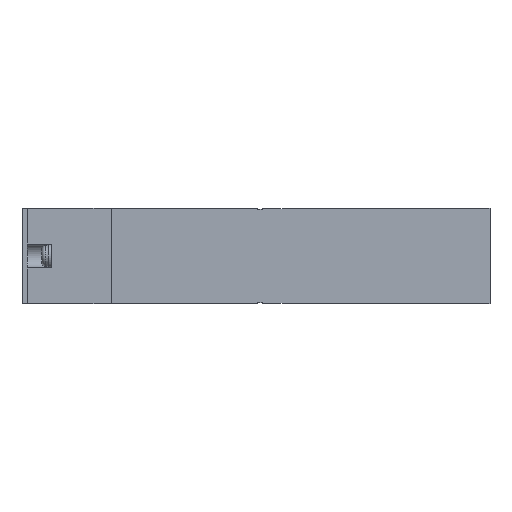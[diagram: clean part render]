
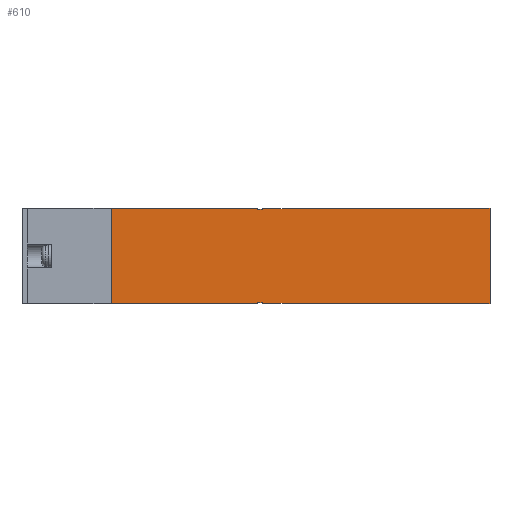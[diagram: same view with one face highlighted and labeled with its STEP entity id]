
A CAD part, front view. The second image highlights one B-rep face of the part: STEP entity #610.
In plain terms, the highlighted planar face has unit normal (0, -1, 0).
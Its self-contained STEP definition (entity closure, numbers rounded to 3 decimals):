
#610=ADVANCED_FACE('',(#1343),#1344,.F.);
#1343=FACE_OUTER_BOUND('',#2215,.T.);
#1344=PLANE('',#2216);
#2215=EDGE_LOOP('',(#4780,#4781,#4782,#4783,#4784,#4785,#4786,#4787,#4788,#4789,#4790,#4791,#4792,#4793,#4794,#4795,#4796,#4797,#4798,#4799,#4800,#4801,#4802,#4803));
#2216=AXIS2_PLACEMENT_3D('',#4804,#4805,#4806);
#4780=ORIENTED_EDGE('',*,*,#6460,.F.);
#4781=ORIENTED_EDGE('',*,*,#6427,.T.);
#4782=ORIENTED_EDGE('',*,*,#6461,.T.);
#4783=ORIENTED_EDGE('',*,*,#6462,.F.);
#4784=ORIENTED_EDGE('',*,*,#6463,.F.);
#4785=ORIENTED_EDGE('',*,*,#6464,.T.);
#4786=ORIENTED_EDGE('',*,*,#6465,.F.);
#4787=ORIENTED_EDGE('',*,*,#6449,.T.);
#4788=ORIENTED_EDGE('',*,*,#6466,.F.);
#4789=ORIENTED_EDGE('',*,*,#6467,.T.);
#4790=ORIENTED_EDGE('',*,*,#6468,.T.);
#4791=ORIENTED_EDGE('',*,*,#6469,.T.);
#4792=ORIENTED_EDGE('',*,*,#6470,.T.);
#4793=ORIENTED_EDGE('',*,*,#6471,.F.);
#4794=ORIENTED_EDGE('',*,*,#6472,.T.);
#4795=ORIENTED_EDGE('',*,*,#6473,.F.);
#4796=ORIENTED_EDGE('',*,*,#6474,.T.);
#4797=ORIENTED_EDGE('',*,*,#6423,.T.);
#4798=ORIENTED_EDGE('',*,*,#6475,.T.);
#4799=ORIENTED_EDGE('',*,*,#6476,.T.);
#4800=ORIENTED_EDGE('',*,*,#6477,.T.);
#4801=ORIENTED_EDGE('',*,*,#6478,.F.);
#4802=ORIENTED_EDGE('',*,*,#6416,.F.);
#4803=ORIENTED_EDGE('',*,*,#6354,.F.);
#4804=CARTESIAN_POINT('',(18.6,0.0,10.0));
#4805=DIRECTION('',(-0.0,1.0,0.0));
#4806=DIRECTION('',(1.0,0.0,0.0));
#6354=EDGE_CURVE('',#7824,#7827,#7828,.T.);
#6416=EDGE_CURVE('',#7827,#7942,#7943,.T.);
#6423=EDGE_CURVE('',#7956,#7954,#7957,.T.);
#6427=EDGE_CURVE('',#7949,#7962,#7964,.T.);
#6449=EDGE_CURVE('',#8003,#8001,#8004,.T.);
#6460=EDGE_CURVE('',#7949,#7824,#8022,.T.);
#6461=EDGE_CURVE('',#7962,#8023,#8024,.T.);
#6462=EDGE_CURVE('',#8025,#8023,#8026,.T.);
#6463=EDGE_CURVE('',#8027,#8025,#8028,.T.);
#6464=EDGE_CURVE('',#8027,#8029,#8030,.T.);
#6465=EDGE_CURVE('',#8003,#8029,#8031,.T.);
#6466=EDGE_CURVE('',#8032,#8001,#8033,.T.);
#6467=EDGE_CURVE('',#8032,#8034,#8035,.T.);
#6468=EDGE_CURVE('',#8034,#8036,#8037,.T.);
#6469=EDGE_CURVE('',#8036,#8038,#8039,.T.);
#6470=EDGE_CURVE('',#8038,#8040,#8041,.T.);
#6471=EDGE_CURVE('',#8042,#8040,#8043,.T.);
#6472=EDGE_CURVE('',#8042,#8044,#8045,.T.);
#6473=EDGE_CURVE('',#8046,#8044,#8047,.T.);
#6474=EDGE_CURVE('',#8046,#7956,#8048,.T.);
#6475=EDGE_CURVE('',#7954,#8049,#8050,.T.);
#6476=EDGE_CURVE('',#8049,#8051,#8052,.T.);
#6477=EDGE_CURVE('',#8051,#8053,#8054,.T.);
#6478=EDGE_CURVE('',#7942,#8053,#8055,.T.);
#7824=VERTEX_POINT('',#10189);
#7827=VERTEX_POINT('',#10193);
#7828=LINE('',#10194,#10195);
#7942=VERTEX_POINT('',#10384);
#7943=LINE('',#10385,#10386);
#7949=VERTEX_POINT('',#10395);
#7954=VERTEX_POINT('',#10402);
#7956=VERTEX_POINT('',#10405);
#7957=LINE('',#10406,#10407);
#7962=VERTEX_POINT('',#10414);
#7964=LINE('',#10417,#10418);
#8001=VERTEX_POINT('',#10474);
#8003=VERTEX_POINT('',#10477);
#8004=LINE('',#10478,#10479);
#8022=LINE('',#10504,#10505);
#8023=VERTEX_POINT('',#10506);
#8024=LINE('',#10507,#10508);
#8025=VERTEX_POINT('',#10509);
#8026=LINE('',#10510,#10511);
#8027=VERTEX_POINT('',#10512);
#8028=LINE('',#10513,#10514);
#8029=VERTEX_POINT('',#10515);
#8030=LINE('',#10516,#10517);
#8031=LINE('',#10518,#10519);
#8032=VERTEX_POINT('',#10520);
#8033=LINE('',#10521,#10522);
#8034=VERTEX_POINT('',#10523);
#8035=LINE('',#10524,#10525);
#8036=VERTEX_POINT('',#10526);
#8037=LINE('',#10527,#10528);
#8038=VERTEX_POINT('',#10529);
#8039=LINE('',#10530,#10531);
#8040=VERTEX_POINT('',#10532);
#8041=LINE('',#10533,#10534);
#8042=VERTEX_POINT('',#10535);
#8043=LINE('',#10536,#10537);
#8044=VERTEX_POINT('',#10538);
#8045=LINE('',#10539,#10540);
#8046=VERTEX_POINT('',#10541);
#8047=LINE('',#10542,#10543);
#8048=LINE('',#10544,#10545);
#8049=VERTEX_POINT('',#10546);
#8050=LINE('',#10547,#10548);
#8051=VERTEX_POINT('',#10549);
#8052=LINE('',#10550,#10551);
#8053=VERTEX_POINT('',#10552);
#8054=LINE('',#10553,#10554);
#8055=LINE('',#10555,#10556);
#10189=CARTESIAN_POINT('',(55.1,0.0,9.9));
#10193=CARTESIAN_POINT('',(55.1,0.0,10.0));
#10194=CARTESIAN_POINT('',(55.1,0.0,9.9));
#10195=VECTOR('',#11929,1.0);
#10384=CARTESIAN_POINT('',(97.6,0.0,10.0));
#10385=CARTESIAN_POINT('',(18.6,0.0,10.0));
#10386=VECTOR('',#12014,1.0);
#10395=CARTESIAN_POINT('',(50.1,0.0,9.9));
#10402=CARTESIAN_POINT('',(50.1,0.0,-9.9));
#10405=CARTESIAN_POINT('',(50.1,0.0,-9.8));
#10406=CARTESIAN_POINT('',(50.1,0.0,10.0));
#10407=VECTOR('',#12021,1.0);
#10414=CARTESIAN_POINT('',(50.1,0.0,9.8));
#10417=CARTESIAN_POINT('',(50.1,0.0,10.0));
#10418=VECTOR('',#12025,1.0);
#10474=CARTESIAN_POINT('',(35.1,0.0,9.9));
#10477=CARTESIAN_POINT('',(35.1,0.0,10.0));
#10478=CARTESIAN_POINT('',(35.1,0.0,10.1));
#10479=VECTOR('',#12049,1.0);
#10504=CARTESIAN_POINT('',(44.1,0.0,9.9));
#10505=VECTOR('',#12066,1.0);
#10506=CARTESIAN_POINT('',(49.1,0.0,9.8));
#10507=CARTESIAN_POINT('',(18.6,0.0,9.8));
#10508=VECTOR('',#12067,1.0);
#10509=CARTESIAN_POINT('',(49.1,0.0,9.9));
#10510=CARTESIAN_POINT('',(49.1,0.0,10.0));
#10511=VECTOR('',#12068,1.0);
#10512=CARTESIAN_POINT('',(44.1,0.0,9.9));
#10513=CARTESIAN_POINT('',(44.1,0.0,9.9));
#10514=VECTOR('',#12069,1.0);
#10515=CARTESIAN_POINT('',(44.1,0.0,10.0));
#10516=CARTESIAN_POINT('',(44.1,0.0,9.9));
#10517=VECTOR('',#12070,1.0);
#10518=CARTESIAN_POINT('',(18.6,0.0,10.0));
#10519=VECTOR('',#12071,1.0);
#10520=CARTESIAN_POINT('',(18.6,0.0,9.9));
#10521=CARTESIAN_POINT('',(18.6,0.0,9.9));
#10522=VECTOR('',#12072,1.0);
#10523=CARTESIAN_POINT('',(18.6,0.0,-9.9));
#10524=CARTESIAN_POINT('',(18.6,0.0,10.0));
#10525=VECTOR('',#12073,1.0);
#10526=CARTESIAN_POINT('',(35.1,0.0,-9.9));
#10527=CARTESIAN_POINT('',(18.6,0.0,-9.9));
#10528=VECTOR('',#12074,1.0);
#10529=CARTESIAN_POINT('',(35.1,0.0,-10.0));
#10530=CARTESIAN_POINT('',(35.1,0.0,-9.9));
#10531=VECTOR('',#12075,1.0);
#10532=CARTESIAN_POINT('',(44.1,0.0,-10.0));
#10533=CARTESIAN_POINT('',(18.6,0.0,-10.0));
#10534=VECTOR('',#12076,1.0);
#10535=CARTESIAN_POINT('',(44.1,0.0,-9.9));
#10536=CARTESIAN_POINT('',(44.1,0.0,-9.9));
#10537=VECTOR('',#12077,1.0);
#10538=CARTESIAN_POINT('',(49.1,0.0,-9.9));
#10539=CARTESIAN_POINT('',(44.1,0.0,-9.9));
#10540=VECTOR('',#12078,1.0);
#10541=CARTESIAN_POINT('',(49.1,0.0,-9.8));
#10542=CARTESIAN_POINT('',(49.1,0.0,10.0));
#10543=VECTOR('',#12079,1.0);
#10544=CARTESIAN_POINT('',(18.6,0.0,-9.8));
#10545=VECTOR('',#12080,1.0);
#10546=CARTESIAN_POINT('',(55.1,0.0,-9.9));
#10547=CARTESIAN_POINT('',(44.1,0.0,-9.9));
#10548=VECTOR('',#12081,1.0);
#10549=CARTESIAN_POINT('',(55.1,0.0,-10.0));
#10550=CARTESIAN_POINT('',(55.1,0.0,-9.9));
#10551=VECTOR('',#12082,1.0);
#10552=CARTESIAN_POINT('',(97.6,0.0,-10.0));
#10553=CARTESIAN_POINT('',(18.6,0.0,-10.0));
#10554=VECTOR('',#12083,1.0);
#10555=CARTESIAN_POINT('',(97.6,0.0,10.0));
#10556=VECTOR('',#12084,1.0);
#11929=DIRECTION('',(0.0,0.0,1.0));
#12014=DIRECTION('',(1.0,0.0,0.0));
#12021=DIRECTION('',(0.0,0.0,-1.0));
#12025=DIRECTION('',(0.0,0.0,-1.0));
#12049=DIRECTION('',(0.0,0.0,-1.0));
#12066=DIRECTION('',(1.0,0.0,0.0));
#12067=DIRECTION('',(-1.0,0.0,0.0));
#12068=DIRECTION('',(0.0,0.0,-1.0));
#12069=DIRECTION('',(1.0,0.0,0.0));
#12070=DIRECTION('',(0.0,0.0,1.0));
#12071=DIRECTION('',(1.0,0.0,0.0));
#12072=DIRECTION('',(1.0,0.0,0.0));
#12073=DIRECTION('',(0.0,0.0,-1.0));
#12074=DIRECTION('',(1.0,0.0,0.0));
#12075=DIRECTION('',(0.0,0.0,-1.0));
#12076=DIRECTION('',(1.0,0.0,0.0));
#12077=DIRECTION('',(0.0,0.0,-1.0));
#12078=DIRECTION('',(1.0,0.0,0.0));
#12079=DIRECTION('',(0.0,0.0,-1.0));
#12080=DIRECTION('',(1.0,0.0,0.0));
#12081=DIRECTION('',(1.0,0.0,0.0));
#12082=DIRECTION('',(0.0,0.0,-1.0));
#12083=DIRECTION('',(1.0,0.0,0.0));
#12084=DIRECTION('',(0.0,0.0,-1.0));
